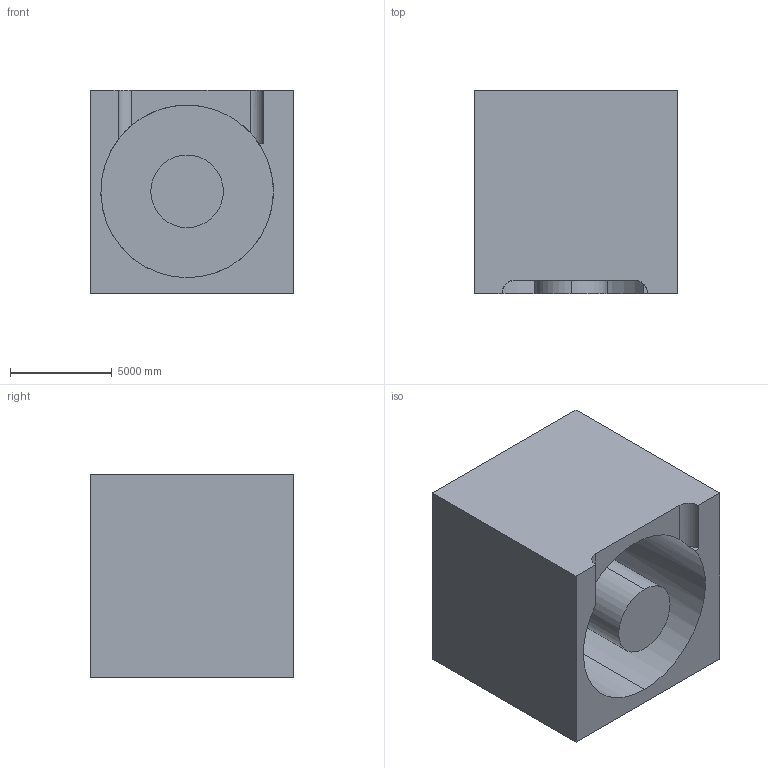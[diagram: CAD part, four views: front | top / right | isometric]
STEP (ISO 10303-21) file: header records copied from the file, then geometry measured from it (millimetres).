
FILE_DESCRIPTION (( 'STEP AP203' ), '1' );
FILE_NAME ('1045.STEP', '2022-08-18T12:32:44', ( 'user' ), ( '' ), 'SwSTEP 2.0', 'SolidWorks 2021', '' );
FILE_SCHEMA (( 'CONFIG_CONTROL_DESIGN' ));
Length unit declared in the file: centimetre
Products named in the file (1): 1045
Bounding box: 10000 x 10000 x 10000 mm (x, y, z)
Volume: 697507979740.8 mm3; surface area: 833579685.9 mm2
Topology: 1 solids, 1 shells, 16 faces, 39 edges, 26 vertices
Faces by surface type: plane 10, cylinder 6
Entity records: 633 total; most frequent: CARTESIAN_POINT 166, DIRECTION 84, ORIENTED_EDGE 78, EDGE_CURVE 39, AXIS2_PLACEMENT_3D 30, VERTEX_POINT 26, LINE 24, VECTOR 24
